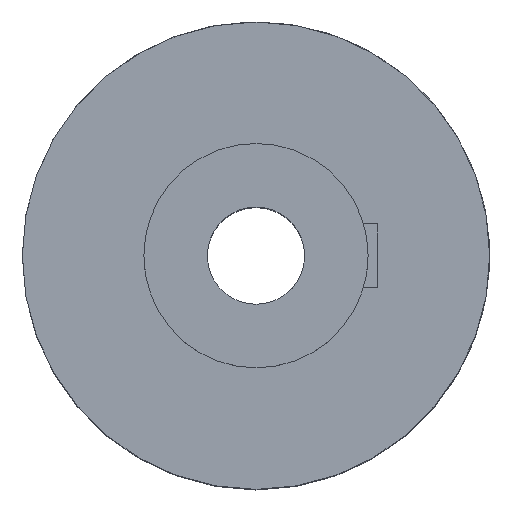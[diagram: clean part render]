
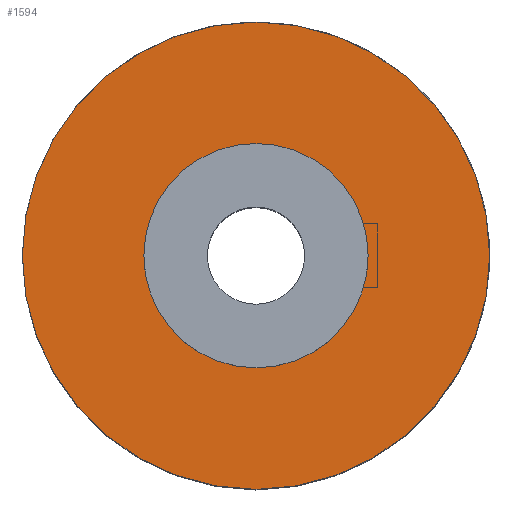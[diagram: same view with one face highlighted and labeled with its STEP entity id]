
A CAD part, top view. The second image highlights one B-rep face of the part: STEP entity #1594.
In plain terms, the highlighted planar face has unit normal (0, 0, 1).
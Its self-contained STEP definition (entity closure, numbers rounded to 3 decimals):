
#1130 = CYLINDRICAL_SURFACE('',#1131,12.5);
#1131 = AXIS2_PLACEMENT_3D('',#1132,#1133,#1134);
#1132 = CARTESIAN_POINT('',(12.5,12.5,18.));
#1133 = DIRECTION('',(-0.,0.,1.));
#1134 = DIRECTION('',(1.,0.,0.));
#1541 = EDGE_CURVE('',#1542,#1542,#1544,.T.);
#1542 = VERTEX_POINT('',#1543);
#1543 = CARTESIAN_POINT('',(25.,12.5,18.));
#1544 = SURFACE_CURVE('',#1545,(#1550,#1557),.PCURVE_S1.);
#1545 = CIRCLE('',#1546,12.5);
#1546 = AXIS2_PLACEMENT_3D('',#1547,#1548,#1549);
#1547 = CARTESIAN_POINT('',(12.5,12.5,18.));
#1548 = DIRECTION('',(0.,0.,-1.));
#1549 = DIRECTION('',(1.,0.,0.));
#1550 = PCURVE('',#1130,#1551);
#1551 = DEFINITIONAL_REPRESENTATION('',(#1552),#1556);
#1552 = LINE('',#1553,#1554);
#1553 = CARTESIAN_POINT('',(-0.,0.));
#1554 = VECTOR('',#1555,1.);
#1555 = DIRECTION('',(-1.,0.));
#1556 = ( GEOMETRIC_REPRESENTATION_CONTEXT(2) 
PARAMETRIC_REPRESENTATION_CONTEXT() REPRESENTATION_CONTEXT('2D SPACE',''
  ) );
#1557 = PCURVE('',#1558,#1563);
#1558 = PLANE('',#1559);
#1559 = AXIS2_PLACEMENT_3D('',#1560,#1561,#1562);
#1560 = CARTESIAN_POINT('',(12.5,12.5,18.));
#1561 = DIRECTION('',(0.,0.,-1.));
#1562 = DIRECTION('',(1.,0.,0.));
#1563 = DEFINITIONAL_REPRESENTATION('',(#1564),#1568);
#1564 = CIRCLE('',#1565,12.5);
#1565 = AXIS2_PLACEMENT_2D('',#1566,#1567);
#1566 = CARTESIAN_POINT('',(0.,0.));
#1567 = DIRECTION('',(1.,0.));
#1568 = ( GEOMETRIC_REPRESENTATION_CONTEXT(2) 
PARAMETRIC_REPRESENTATION_CONTEXT() REPRESENTATION_CONTEXT('2D SPACE',''
  ) );
#1594 = ADVANCED_FACE('',(#1595,#1598),#1558,.F.);
#1595 = FACE_BOUND('',#1596,.F.);
#1596 = EDGE_LOOP('',(#1597));
#1597 = ORIENTED_EDGE('',*,*,#1541,.T.);
#1598 = FACE_BOUND('',#1599,.F.);
#1599 = EDGE_LOOP('',(#1600));
#1600 = ORIENTED_EDGE('',*,*,#1601,.F.);
#1601 = EDGE_CURVE('',#1602,#1602,#1604,.T.);
#1602 = VERTEX_POINT('',#1603);
#1603 = CARTESIAN_POINT('',(18.5,12.5,18.));
#1604 = SURFACE_CURVE('',#1605,(#1610,#1617),.PCURVE_S1.);
#1605 = CIRCLE('',#1606,6.);
#1606 = AXIS2_PLACEMENT_3D('',#1607,#1608,#1609);
#1607 = CARTESIAN_POINT('',(12.5,12.5,18.));
#1608 = DIRECTION('',(0.,0.,-1.));
#1609 = DIRECTION('',(1.,0.,0.));
#1610 = PCURVE('',#1558,#1611);
#1611 = DEFINITIONAL_REPRESENTATION('',(#1612),#1616);
#1612 = CIRCLE('',#1613,6.);
#1613 = AXIS2_PLACEMENT_2D('',#1614,#1615);
#1614 = CARTESIAN_POINT('',(0.,0.));
#1615 = DIRECTION('',(1.,0.));
#1616 = ( GEOMETRIC_REPRESENTATION_CONTEXT(2) 
PARAMETRIC_REPRESENTATION_CONTEXT() REPRESENTATION_CONTEXT('2D SPACE',''
  ) );
#1617 = PCURVE('',#1618,#1623);
#1618 = CYLINDRICAL_SURFACE('',#1619,6.);
#1619 = AXIS2_PLACEMENT_3D('',#1620,#1621,#1622);
#1620 = CARTESIAN_POINT('',(12.5,12.5,20.));
#1621 = DIRECTION('',(-0.,0.,1.));
#1622 = DIRECTION('',(1.,0.,0.));
#1623 = DEFINITIONAL_REPRESENTATION('',(#1624),#1628);
#1624 = LINE('',#1625,#1626);
#1625 = CARTESIAN_POINT('',(-0.,-2.));
#1626 = VECTOR('',#1627,1.);
#1627 = DIRECTION('',(-1.,0.));
#1628 = ( GEOMETRIC_REPRESENTATION_CONTEXT(2) 
PARAMETRIC_REPRESENTATION_CONTEXT() REPRESENTATION_CONTEXT('2D SPACE',''
  ) );
